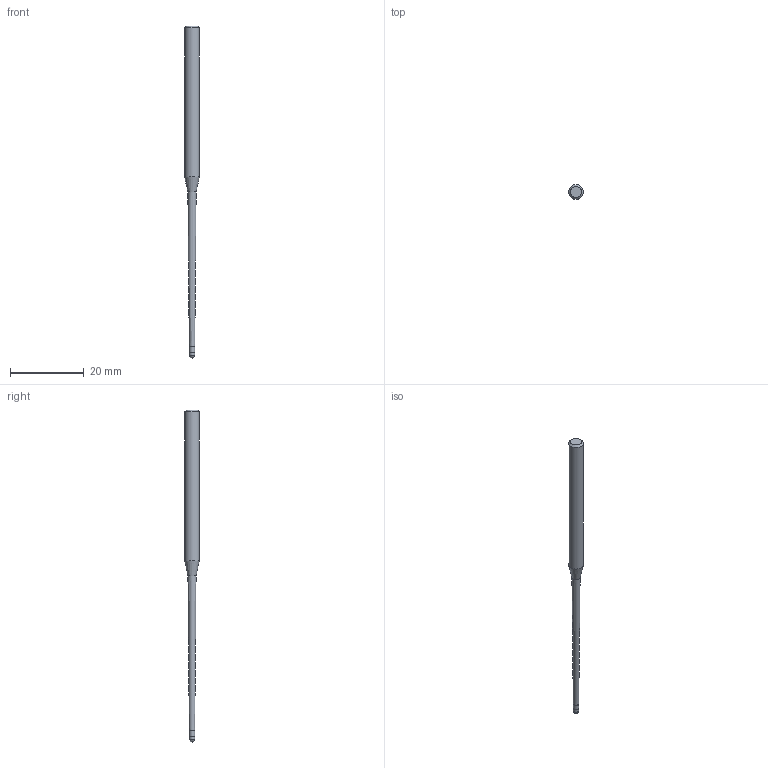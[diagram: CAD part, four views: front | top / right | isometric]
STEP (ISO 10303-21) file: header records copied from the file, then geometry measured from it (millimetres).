
FILE_DESCRIPTION((''),'2;1');
FILE_NAME('C:\Users\nsx150\AppData\Local\Temp\Mastercam 2021\SNAKH10GOD\TEMP.step','2021-10-21T13:32:49',(''),(''),'STEP Write','Mastercam 2021 ... CNC Software, Inc.','');
FILE_SCHEMA(('AUTOMOTIVE_DESIGN'));
Length unit declared in the file: millimetre
Products named in the file (1): None
Bounding box: 4 x 4 x 90 mm (x, y, z)
Volume: 664.5 mm3; surface area: 826 mm2
Topology: 2 solids, 2 shells, 10 faces, 16 edges, 9 vertices
Faces by surface type: plane 3, cylinder 3, cone 3, sphere 1
Full cylindrical faces by diameter (mm): 1.485 x1, 1.5 x1, 4 x1
Entity records: 232 total; most frequent: DIRECTION 40, CARTESIAN_POINT 28, AXIS2_PLACEMENT_3D 20, ORIENTED_EDGE 16, EDGE_LOOP 16, STYLED_ITEM 13, ADVANCED_FACE 10, FACE_BOUND 9
